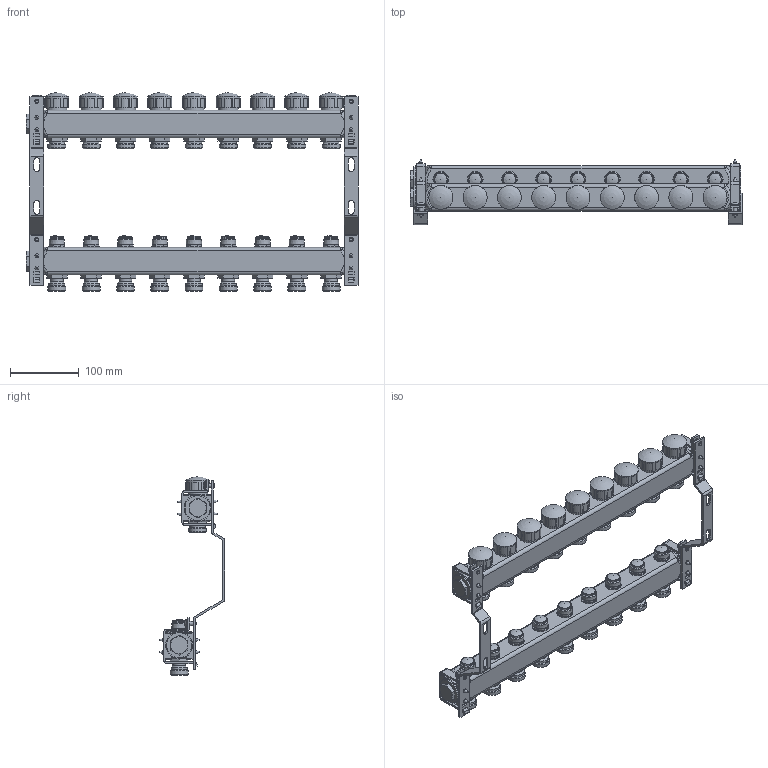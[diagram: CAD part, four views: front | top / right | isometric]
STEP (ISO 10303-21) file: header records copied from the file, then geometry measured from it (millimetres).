
FILE_DESCRIPTION(('STEP AP203'), '1');
FILE_NAME('VTc.582.EMNX.0609', '', ('UNSPECIFIED'), ('UNSPECIFIED'), 'C3D Converter', 'C3D Toolkit', '');
FILE_SCHEMA(('CONFIG_CONTROL_DESIGN'));
Length unit declared in the file: millimetre
Products named in the file (1): -06
Bounding box: 484.2 x 95.7 x 289.2 mm (x, y, z)
Volume: 1947019.4 mm3; surface area: 266745.6 mm2
Topology: 1 solids, 1 shells, 1313 faces, 3530 edges, 2260 vertices
Faces by surface type: plane 750, cylinder 328, cone 103, torus 78, bspline 36, sphere 18
Full cylindrical faces by diameter (mm): 5.4 x16, 6 x8, 12 x4, 18.4 x9, 19.3 x9, 22.9 x9, 23 x9, 23.5 x9, 25.9 x9, 26 x9, 29.5 x9, 34.9 x9, 35.3 x2, 36.5 x2, 39.3 x4
Entity records: 50323 total; most frequent: CARTESIAN_POINT 18363, ORIENTED_EDGE 6524, DIRECTION 6502, EDGE_CURVE 3262, AXIS2_PLACEMENT_3D 2298, VERTEX_POINT 2240, LINE 1906, VECTOR 1906
